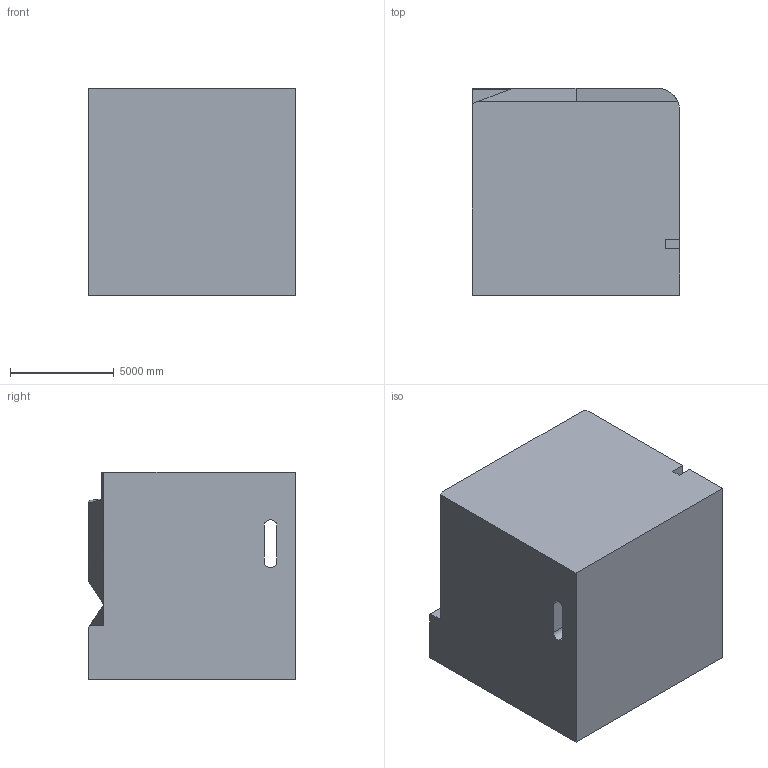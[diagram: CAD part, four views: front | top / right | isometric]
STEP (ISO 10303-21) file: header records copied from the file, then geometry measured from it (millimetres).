
FILE_DESCRIPTION (( 'STEP AP203' ), '1' );
FILE_NAME ('197.STEP', '2022-09-05T16:09:45', ( 'user' ), ( '' ), 'SwSTEP 2.0', 'SolidWorks 2021', '' );
FILE_SCHEMA (( 'CONFIG_CONTROL_DESIGN' ));
Length unit declared in the file: centimetre
Products named in the file (1): 197
Bounding box: 10000 x 10000 x 10000 mm (x, y, z)
Volume: 938016877289 mm3; surface area: 684041214.7 mm2
Topology: 1 solids, 1 shells, 37 faces, 100 edges, 66 vertices
Faces by surface type: plane 31, cylinder 6
Entity records: 1232 total; most frequent: CARTESIAN_POINT 213, ORIENTED_EDGE 200, DIRECTION 186, EDGE_CURVE 100, LINE 84, VECTOR 84, VERTEX_POINT 66, AXIS2_PLACEMENT_3D 51
